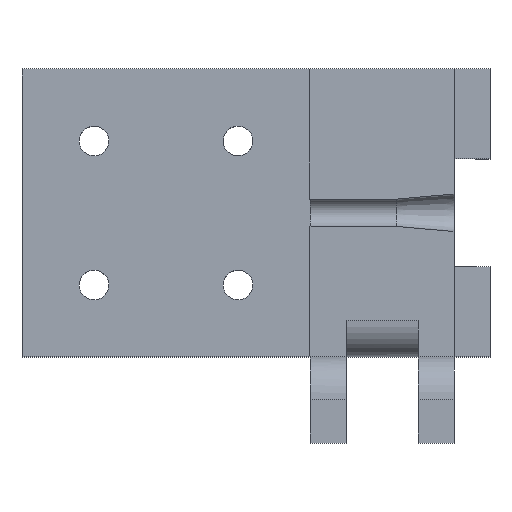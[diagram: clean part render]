
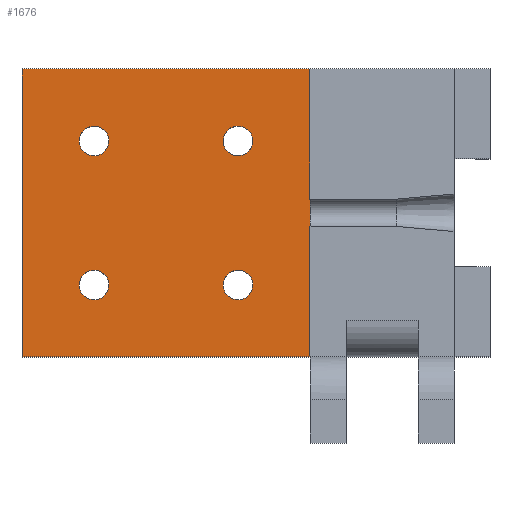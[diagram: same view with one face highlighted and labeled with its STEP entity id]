
A CAD part, top view. The second image highlights one B-rep face of the part: STEP entity #1676.
In plain terms, the highlighted planar face has unit normal (0, 0, 1).
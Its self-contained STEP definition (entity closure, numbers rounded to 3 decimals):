
#248=AXIS2_PLACEMENT_3D('Circle Axis2P3D',#246,#247,$) ;
#709=AXIS2_PLACEMENT_3D('Circle Axis2P3D',#707,#708,$) ;
#763=AXIS2_PLACEMENT_3D('Circle Axis2P3D',#761,#762,$) ;
#787=AXIS2_PLACEMENT_3D('Circle Axis2P3D',#785,#786,$) ;
#1647=AXIS2_PLACEMENT_3D('Plane Axis2P3D',#1644,#1645,#1646) ;
#208=CARTESIAN_POINT('Vertex',(-8.186,-9.009,-16.5)) ;
#212=CARTESIAN_POINT('Control Point',(-8.186,-9.009,-16.5)) ;
#213=CARTESIAN_POINT('Control Point',(-8.497,-8.439,-16.5)) ;
#214=CARTESIAN_POINT('Control Point',(-9.032,-7.992,-16.5)) ;
#215=CARTESIAN_POINT('Control Point',(-9.729,-7.787,-16.5)) ;
#216=CARTESIAN_POINT('Control Point',(-11.113,-7.962,-16.5)) ;
#217=CARTESIAN_POINT('Control Point',(-12.008,-9.032,-16.5)) ;
#218=CARTESIAN_POINT('Control Point',(-12.213,-9.729,-16.5)) ;
#219=CARTESIAN_POINT('Control Point',(-12.125,-10.421,-16.5)) ;
#220=CARTESIAN_POINT('Control Point',(-11.814,-10.991,-16.5)) ;
#221=CARTESIAN_POINT('Vertex',(-11.814,-10.991,-16.5)) ;
#246=CARTESIAN_POINT('Axis2P3D Location',(-10.,-10.,-16.5)) ;
#674=CARTESIAN_POINT('Vertex',(-8.186,10.991,-16.5)) ;
#678=CARTESIAN_POINT('Control Point',(-8.186,10.991,-16.5)) ;
#679=CARTESIAN_POINT('Control Point',(-8.497,11.561,-16.5)) ;
#680=CARTESIAN_POINT('Control Point',(-9.032,12.008,-16.5)) ;
#681=CARTESIAN_POINT('Control Point',(-9.729,12.213,-16.5)) ;
#682=CARTESIAN_POINT('Control Point',(-11.113,12.038,-16.5)) ;
#683=CARTESIAN_POINT('Control Point',(-12.008,10.968,-16.5)) ;
#684=CARTESIAN_POINT('Control Point',(-12.213,10.271,-16.5)) ;
#685=CARTESIAN_POINT('Control Point',(-12.125,9.579,-16.5)) ;
#686=CARTESIAN_POINT('Control Point',(-11.814,9.009,-16.5)) ;
#687=CARTESIAN_POINT('Vertex',(-11.814,9.009,-16.5)) ;
#707=CARTESIAN_POINT('Axis2P3D Location',(-10.,10.,-16.5)) ;
#728=CARTESIAN_POINT('Vertex',(11.814,-9.009,-16.5)) ;
#732=CARTESIAN_POINT('Control Point',(11.814,-9.009,-16.5)) ;
#733=CARTESIAN_POINT('Control Point',(11.503,-8.439,-16.5)) ;
#734=CARTESIAN_POINT('Control Point',(10.968,-7.992,-16.5)) ;
#735=CARTESIAN_POINT('Control Point',(10.271,-7.787,-16.5)) ;
#736=CARTESIAN_POINT('Control Point',(8.887,-7.962,-16.5)) ;
#737=CARTESIAN_POINT('Control Point',(7.992,-9.032,-16.5)) ;
#738=CARTESIAN_POINT('Control Point',(7.787,-9.729,-16.5)) ;
#739=CARTESIAN_POINT('Control Point',(7.875,-10.421,-16.5)) ;
#740=CARTESIAN_POINT('Control Point',(8.186,-10.991,-16.5)) ;
#741=CARTESIAN_POINT('Vertex',(8.186,-10.991,-16.5)) ;
#761=CARTESIAN_POINT('Axis2P3D Location',(10.,-10.,-16.5)) ;
#782=CARTESIAN_POINT('Vertex',(11.814,10.991,-16.5)) ;
#785=CARTESIAN_POINT('Axis2P3D Location',(10.,10.,-16.5)) ;
#789=CARTESIAN_POINT('Vertex',(8.186,9.009,-16.5)) ;
#810=CARTESIAN_POINT('Control Point',(8.186,9.009,-16.5)) ;
#811=CARTESIAN_POINT('Control Point',(8.497,8.439,-16.5)) ;
#812=CARTESIAN_POINT('Control Point',(9.032,7.992,-16.5)) ;
#813=CARTESIAN_POINT('Control Point',(9.729,7.787,-16.5)) ;
#814=CARTESIAN_POINT('Control Point',(11.113,7.962,-16.5)) ;
#815=CARTESIAN_POINT('Control Point',(12.008,9.032,-16.5)) ;
#816=CARTESIAN_POINT('Control Point',(12.213,9.729,-16.5)) ;
#817=CARTESIAN_POINT('Control Point',(12.125,10.421,-16.5)) ;
#818=CARTESIAN_POINT('Control Point',(11.814,10.991,-16.5)) ;
#1340=CARTESIAN_POINT('Line Origine',(-20.,0.,-16.5)) ;
#1344=CARTESIAN_POINT('Vertex',(-20.,20.,-16.5)) ;
#1346=CARTESIAN_POINT('Vertex',(-20.,-20.,-16.5)) ;
#1559=CARTESIAN_POINT('Vertex',(20.,-20.,-16.5)) ;
#1562=CARTESIAN_POINT('Line Origine',(0.,-20.,-16.5)) ;
#1587=CARTESIAN_POINT('Line Origine',(0.,20.,-16.5)) ;
#1591=CARTESIAN_POINT('Vertex',(20.,20.,-16.5)) ;
#1644=CARTESIAN_POINT('Axis2P3D Location',(-10.,-10.,-16.5)) ;
#1649=CARTESIAN_POINT('Line Origine',(20.,0.,-16.5)) ;
#247=DIRECTION('Axis2P3D Direction',(0.,-0.,1.)) ;
#708=DIRECTION('Axis2P3D Direction',(0.,-0.,1.)) ;
#762=DIRECTION('Axis2P3D Direction',(0.,-0.,1.)) ;
#786=DIRECTION('Axis2P3D Direction',(0.,-0.,1.)) ;
#1341=DIRECTION('Vector Direction',(0.,1.,0.)) ;
#1563=DIRECTION('Vector Direction',(1.,0.,0.)) ;
#1588=DIRECTION('Vector Direction',(1.,0.,0.)) ;
#1645=DIRECTION('Axis2P3D Direction',(0.,-0.,1.)) ;
#1646=DIRECTION('Axis2P3D XDirection',(1.,0.,0.)) ;
#1650=DIRECTION('Vector Direction',(0.,1.,0.)) ;
#1342=VECTOR('Line Direction',#1341,1.) ;
#1564=VECTOR('Line Direction',#1563,1.) ;
#1589=VECTOR('Line Direction',#1588,1.) ;
#1651=VECTOR('Line Direction',#1650,1.) ;
#1655=ORIENTED_EDGE('',*,*,#1653,.F.) ;
#1656=ORIENTED_EDGE('',*,*,#1593,.F.) ;
#1657=ORIENTED_EDGE('',*,*,#1348,.T.) ;
#1658=ORIENTED_EDGE('',*,*,#1566,.T.) ;
#1661=ORIENTED_EDGE('',*,*,#223,.F.) ;
#1662=ORIENTED_EDGE('',*,*,#250,.F.) ;
#1665=ORIENTED_EDGE('',*,*,#689,.F.) ;
#1666=ORIENTED_EDGE('',*,*,#711,.F.) ;
#1669=ORIENTED_EDGE('',*,*,#743,.F.) ;
#1670=ORIENTED_EDGE('',*,*,#765,.F.) ;
#1673=ORIENTED_EDGE('',*,*,#791,.F.) ;
#1674=ORIENTED_EDGE('',*,*,#819,.F.) ;
#1663=FACE_BOUND('',#1660,.T.) ;
#1667=FACE_BOUND('',#1664,.T.) ;
#1671=FACE_BOUND('',#1668,.T.) ;
#1675=FACE_BOUND('',#1672,.T.) ;
#1676=ADVANCED_FACE('\X2\96F64EF651E04F554F53\X0\',(#1659,#1663,#1667,#1671,#1675),#1648,.T.) ;
#211=B_SPLINE_CURVE_WITH_KNOTS('',5,(#212,#213,#214,#215,#216,#217,#218,#219,#220),.UNSPECIFIED.,.F.,.U.,(6,3,6),(-3.247,0.,3.247),.UNSPECIFIED.) ;
#677=B_SPLINE_CURVE_WITH_KNOTS('',5,(#678,#679,#680,#681,#682,#683,#684,#685,#686),.UNSPECIFIED.,.F.,.U.,(6,3,6),(-3.247,0.,3.247),.UNSPECIFIED.) ;
#731=B_SPLINE_CURVE_WITH_KNOTS('',5,(#732,#733,#734,#735,#736,#737,#738,#739,#740),.UNSPECIFIED.,.F.,.U.,(6,3,6),(-3.247,0.,3.247),.UNSPECIFIED.) ;
#809=B_SPLINE_CURVE_WITH_KNOTS('',5,(#810,#811,#812,#813,#814,#815,#816,#817,#818),.UNSPECIFIED.,.F.,.U.,(6,3,6),(-3.247,0.,3.247),.UNSPECIFIED.) ;
#249=CIRCLE('generated circle',#248,2.067) ;
#710=CIRCLE('generated circle',#709,2.067) ;
#764=CIRCLE('generated circle',#763,2.067) ;
#788=CIRCLE('generated circle',#787,2.067) ;
#223=EDGE_CURVE('',#209,#222,#211,.T.) ;
#250=EDGE_CURVE('',#222,#209,#249,.T.) ;
#689=EDGE_CURVE('',#675,#688,#677,.T.) ;
#711=EDGE_CURVE('',#688,#675,#710,.T.) ;
#743=EDGE_CURVE('',#729,#742,#731,.T.) ;
#765=EDGE_CURVE('',#742,#729,#764,.T.) ;
#791=EDGE_CURVE('',#783,#790,#788,.T.) ;
#819=EDGE_CURVE('',#790,#783,#809,.T.) ;
#1348=EDGE_CURVE('',#1345,#1347,#1343,.F.) ;
#1566=EDGE_CURVE('',#1347,#1560,#1565,.T.) ;
#1593=EDGE_CURVE('',#1345,#1592,#1590,.T.) ;
#1653=EDGE_CURVE('',#1592,#1560,#1652,.F.) ;
#1654=EDGE_LOOP('',(#1655,#1656,#1657,#1658)) ;
#1660=EDGE_LOOP('',(#1661,#1662)) ;
#1664=EDGE_LOOP('',(#1665,#1666)) ;
#1668=EDGE_LOOP('',(#1669,#1670)) ;
#1672=EDGE_LOOP('',(#1673,#1674)) ;
#1659=FACE_OUTER_BOUND('',#1654,.T.) ;
#1343=LINE('Line',#1340,#1342) ;
#1565=LINE('Line',#1562,#1564) ;
#1590=LINE('Line',#1587,#1589) ;
#1652=LINE('Line',#1649,#1651) ;
#1648=PLANE('',#1647) ;
#209=VERTEX_POINT('',#208) ;
#222=VERTEX_POINT('',#221) ;
#675=VERTEX_POINT('',#674) ;
#688=VERTEX_POINT('',#687) ;
#729=VERTEX_POINT('',#728) ;
#742=VERTEX_POINT('',#741) ;
#783=VERTEX_POINT('',#782) ;
#790=VERTEX_POINT('',#789) ;
#1345=VERTEX_POINT('',#1344) ;
#1347=VERTEX_POINT('',#1346) ;
#1560=VERTEX_POINT('',#1559) ;
#1592=VERTEX_POINT('',#1591) ;
